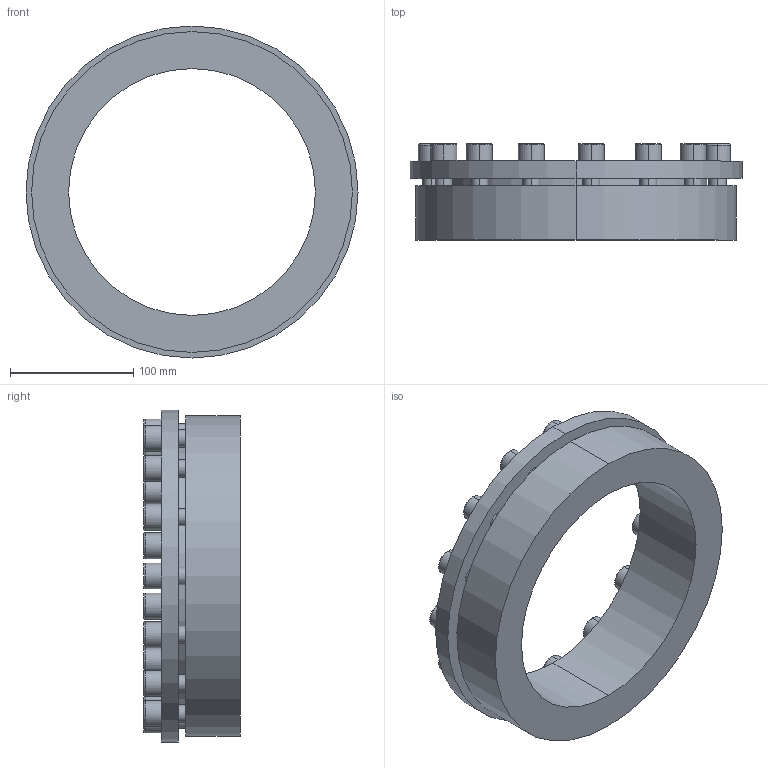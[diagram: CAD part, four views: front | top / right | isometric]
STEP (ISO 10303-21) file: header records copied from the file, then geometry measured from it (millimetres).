
FILE_DESCRIPTION (( 'STEP AP203' ), '1' );
FILE_NAME ('PL-H6 200-260.STEP', '2021-10-23T01:40:02', ( '' ), ( '' ), 'SwSTEP 2.0', 'SolidWorks 2018', '' );
FILE_SCHEMA (( 'CONFIG_CONTROL_DESIGN' ));
Length unit declared in the file: millimetre
Products named in the file (1): PL-H6 200-260
Bounding box: 269 x 78 x 269 mm (x, y, z)
Volume: 1406201.4 mm3; surface area: 195528.1 mm2
Topology: 1 solids, 1 shells, 222 faces, 534 edges, 346 vertices
Faces by surface type: plane 124, cylinder 68, torus 30
Entity records: 6615 total; most frequent: DIRECTION 1176, CARTESIAN_POINT 1103, ORIENTED_EDGE 1068, EDGE_CURVE 534, AXIS2_PLACEMENT_3D 419, VERTEX_POINT 346, VECTOR 338, LINE 338
